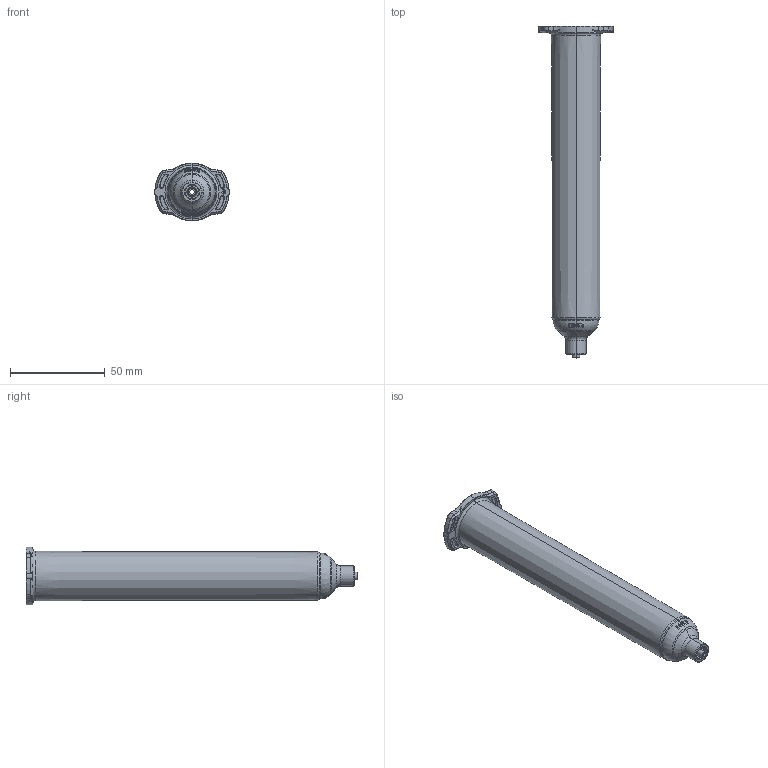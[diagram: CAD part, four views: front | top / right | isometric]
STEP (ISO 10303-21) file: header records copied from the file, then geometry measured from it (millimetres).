
FILE_DESCRIPTION (( 'STEP AP214' ), '1' );
FILE_NAME ('NORDSONEFD-7012002 BARREL O 55CC AM.STEP', '2019-01-15T07:59:20', ( '' ), ( '' ), 'SwSTEP 2.0', 'SolidWorks 2018', '' );
FILE_SCHEMA (( 'AUTOMOTIVE_DESIGN' ));
Length unit declared in the file: inch
Products named in the file (1): NORDSONEFD-7012002 BARREL O 55CC AM
Bounding box: 40.11 x 175.59 x 30.65 mm (x, y, z)
Volume: 21115.7 mm3; surface area: 26751.4 mm2
Topology: 1 solids, 1 shells, 585 faces, 1482 edges, 917 vertices
Faces by surface type: bspline 260, plane 161, torus 79, cylinder 52, cone 33
Entity records: 24893 total; most frequent: CARTESIAN_POINT 12969, ORIENTED_EDGE 2956, DIRECTION 1715, EDGE_CURVE 1478, VERTEX_POINT 917, B_SPLINE_CURVE_WITH_KNOTS 692, AXIS2_PLACEMENT_3D 629, EDGE_LOOP 609
